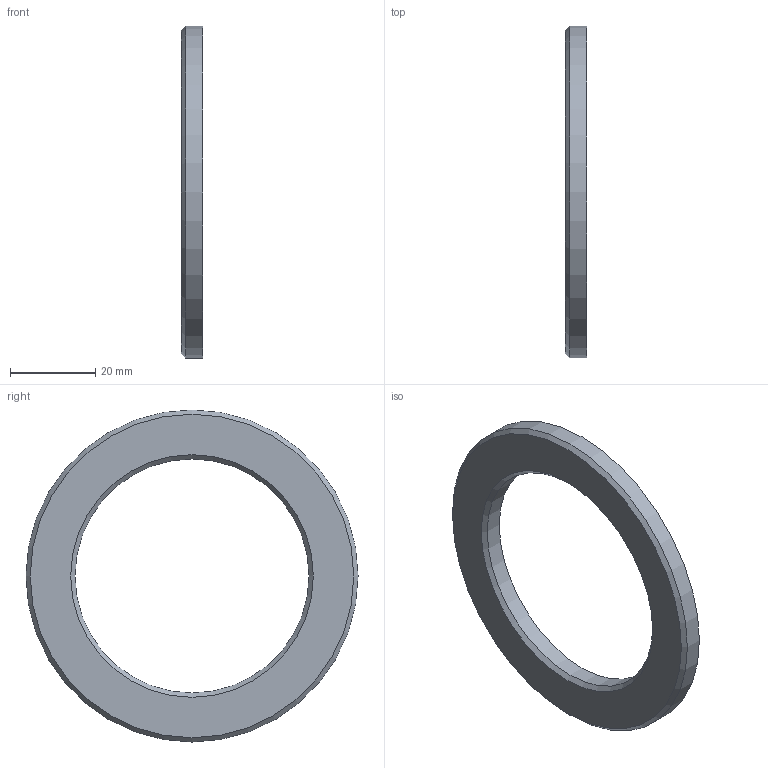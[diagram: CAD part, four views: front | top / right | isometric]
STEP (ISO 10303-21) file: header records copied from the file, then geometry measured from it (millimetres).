
FILE_DESCRIPTION(/* description */ (''),/* implementation_level */ '2;1');
FILE_NAME(/* name */ 'I:\Katalóg ihlovích ložísk\AXK---\LS--\LS5578.stp',/* time_stamp */ '2016-12-13T08:29:06+01:00',/* author */ ('OUBALASKO'),/* organization */ (''),/* preprocessor_version */ 'ST-DEVELOPER v15.6',/* originating_system */ 'Autodesk Inventor 2015',/* authorisation */ '');
FILE_SCHEMA (('AUTOMOTIVE_DESIGN { 1 0 10303 214 3 1 1 }'));
Length unit declared in the file: millimetre
Products named in the file (1): LS5578
Bounding box: 5 x 78 x 78 mm (x, y, z)
Volume: 11803.7 mm3; surface area: 6649.5 mm2
Topology: 1 solids, 1 shells, 6 faces, 10 edges, 6 vertices
Faces by surface type: cone 2, plane 2, cylinder 2
Full cylindrical faces by diameter (mm): 55 x1, 78 x1
Entity records: 152 total; most frequent: DIRECTION 26, CARTESIAN_POINT 19, AXIS2_PLACEMENT_3D 13, EDGE_LOOP 12, ORIENTED_EDGE 12, FACE_BOUND 6, FACE_OUTER_BOUND 6, CIRCLE 6
